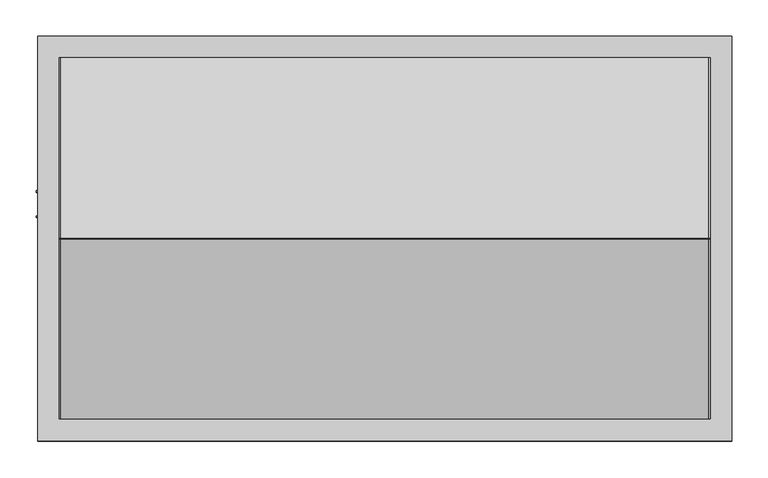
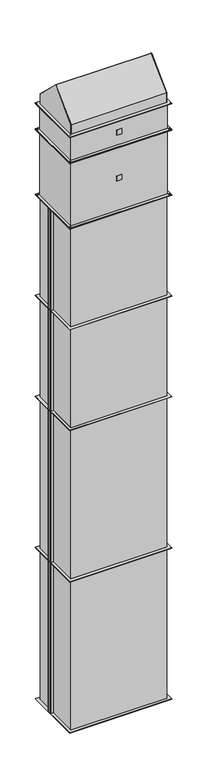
"""IFC4 building model written with IfcOpenShell, lengths in millimetres: proxy geometry, KORF_Завеса_БезНагрева_PWZ_C : PWZ-C 90-50 H."""

from ifc_helpers import new_model, si_unit, point, frame, frame_2d, origin, origin_with_axes, place, context, project, spatial, polyline, circle_curve, trimmed, segment, composite_curve, outline, extrude, source, transform, mapped, element, save


def mechanical_equipment_bf6ab390(model_context):
    return source(origin(), model_context, "Body", "SweptSolid", [
        extrude(outline(polyline([(25.0, -255.0), (-25.0, -255.0), (-25.0, -253.0), (25.0, -253.0), (25.0, -255.0)])), frame((0.0, 0.0, 5755.0), z_axis=(0.0, 0.0, 1.0), x_axis=(1.0, 0.0, 0.0)), (0.0, 0.0, 1.0), 50.0),
        extrude(outline(polyline([(-480.0, -280.0), (-480.0, 280.0), (480.0, 280.0), (480.0, -280.0), (-480.0, -280.0)]), holes=[polyline([(-450.0, -250.0), (450.0, -250.0), (450.0, 250.0), (-450.0, 250.0), (-450.0, -250.0)]), composite_curve([segment(trimmed(circle_curve(frame_2d((465.0, -265.0)), 5.5), [point((470.5, -265.0))], [point((459.5, -265.0))], True, "CARTESIAN"), True, "CONTINUOUS"), segment(trimmed(circle_curve(frame_2d((465.0, -265.0)), 5.5), [point((459.5, -265.0))], [point((470.5, -265.0))], True, "CARTESIAN"), True, "CONTINUOUS")], self_intersect=False), composite_curve([segment(trimmed(circle_curve(frame_2d((-465.0, -265.0)), 5.5), [point((-459.5, -265.0))], [point((-470.5, -265.0))], True, "CARTESIAN"), True, "CONTINUOUS"), segment(trimmed(circle_curve(frame_2d((-465.0, -265.0)), 5.5), [point((-470.5, -265.0))], [point((-459.5, -265.0))], True, "CARTESIAN"), True, "CONTINUOUS")], self_intersect=False), composite_curve([segment(trimmed(circle_curve(frame_2d((-465.0, 265.0)), 5.5), [point((-459.5, 265.0))], [point((-470.5, 265.0))], True, "CARTESIAN"), True, "CONTINUOUS"), segment(trimmed(circle_curve(frame_2d((-465.0, 265.0)), 5.5), [point((-470.5, 265.0))], [point((-459.5, 265.0))], True, "CARTESIAN"), True, "CONTINUOUS")], self_intersect=False), composite_curve([segment(trimmed(circle_curve(frame_2d((465.0, 265.0)), 5.5), [point((470.5, 265.0))], [point((459.5, 265.0))], True, "CARTESIAN"), True, "CONTINUOUS"), segment(trimmed(circle_curve(frame_2d((465.0, 265.0)), 5.5), [point((459.5, 265.0))], [point((470.5, 265.0))], True, "CARTESIAN"), True, "CONTINUOUS")], self_intersect=False)]), frame((0.0, 0.0, 5650.0), z_axis=(0.0, 0.0, 1.0), x_axis=(1.0, 0.0, 0.0)), (0.0, 0.0, 1.0), 5.0),
        extrude(outline(polyline([(-480.0, -280.0), (-480.0, 280.0), (480.0, 280.0), (480.0, -280.0), (-480.0, -280.0)]), holes=[polyline([(-450.0, -250.0), (450.0, -250.0), (450.0, 250.0), (-450.0, 250.0), (-450.0, -250.0)]), composite_curve([segment(trimmed(circle_curve(frame_2d((465.0, -265.0)), 5.5), [point((470.5, -265.0))], [point((459.5, -265.0))], True, "CARTESIAN"), True, "CONTINUOUS"), segment(trimmed(circle_curve(frame_2d((465.0, -265.0)), 5.5), [point((459.5, -265.0))], [point((470.5, -265.0))], True, "CARTESIAN"), True, "CONTINUOUS")], self_intersect=False), composite_curve([segment(trimmed(circle_curve(frame_2d((-465.0, -265.0)), 5.5), [point((-459.5, -265.0))], [point((-470.5, -265.0))], True, "CARTESIAN"), True, "CONTINUOUS"), segment(trimmed(circle_curve(frame_2d((-465.0, -265.0)), 5.5), [point((-470.5, -265.0))], [point((-459.5, -265.0))], True, "CARTESIAN"), True, "CONTINUOUS")], self_intersect=False), composite_curve([segment(trimmed(circle_curve(frame_2d((-465.0, 265.0)), 5.5), [point((-459.5, 265.0))], [point((-470.5, 265.0))], True, "CARTESIAN"), True, "CONTINUOUS"), segment(trimmed(circle_curve(frame_2d((-465.0, 265.0)), 5.5), [point((-470.5, 265.0))], [point((-459.5, 265.0))], True, "CARTESIAN"), True, "CONTINUOUS")], self_intersect=False), composite_curve([segment(trimmed(circle_curve(frame_2d((465.0, 265.0)), 5.5), [point((470.5, 265.0))], [point((459.5, 265.0))], True, "CARTESIAN"), True, "CONTINUOUS"), segment(trimmed(circle_curve(frame_2d((465.0, 265.0)), 5.5), [point((459.5, 265.0))], [point((470.5, 265.0))], True, "CARTESIAN"), True, "CONTINUOUS")], self_intersect=False)]), frame((0.0, 0.0, 5905.0), z_axis=(0.0, 0.0, 1.0), x_axis=(1.0, 0.0, 0.0)), (0.0, 0.0, 1.0), 5.0),
        extrude(outline(polyline([(-453.0, -253.0), (-453.0, 253.0), (453.0, 253.0), (453.0, -253.0), (-453.0, -253.0)])), frame((0.0, 0.0, 5655.0), z_axis=(0.0, 0.0, 1.0), x_axis=(1.0, 0.0, 0.0)), (0.0, 0.0, 1.0), 250.0),
        extrude(outline(polyline([(25.0, -255.0), (-25.0, -255.0), (-25.0, -253.0), (25.0, -253.0), (25.0, -255.0)])), frame((0.0, 0.0, 5300.0), z_axis=(0.0, 0.0, 1.0), x_axis=(1.0, 0.0, 0.0)), (0.0, 0.0, 1.0), 50.0),
        extrude(outline(polyline([(480.0, -280.0), (-480.0, -280.0), (-480.0, 280.0), (480.0, 280.0), (480.0, -280.0)]), holes=[polyline([(450.0, -250.0), (450.0, 250.0), (-450.0, 250.0), (-450.0, -250.0), (450.0, -250.0)]), composite_curve([segment(trimmed(circle_curve(frame_2d((-465.0, -265.0)), 5.5), [point((-459.5, -265.0))], [point((-470.5, -265.0))], True, "CARTESIAN"), True, "CONTINUOUS"), segment(trimmed(circle_curve(frame_2d((-465.0, -265.0)), 5.5), [point((-470.5, -265.0))], [point((-459.5, -265.0))], True, "CARTESIAN"), True, "CONTINUOUS")], self_intersect=False), composite_curve([segment(trimmed(circle_curve(frame_2d((465.0, -265.0)), 5.5), [point((470.5, -265.0))], [point((459.5, -265.0))], True, "CARTESIAN"), True, "CONTINUOUS"), segment(trimmed(circle_curve(frame_2d((465.0, -265.0)), 5.5), [point((459.5, -265.0))], [point((470.5, -265.0))], True, "CARTESIAN"), True, "CONTINUOUS")], self_intersect=False), composite_curve([segment(trimmed(circle_curve(frame_2d((465.0, 265.0)), 5.5), [point((470.5, 265.0))], [point((459.5, 265.0))], True, "CARTESIAN"), True, "CONTINUOUS"), segment(trimmed(circle_curve(frame_2d((465.0, 265.0)), 5.5), [point((459.5, 265.0))], [point((470.5, 265.0))], True, "CARTESIAN"), True, "CONTINUOUS")], self_intersect=False), composite_curve([segment(trimmed(circle_curve(frame_2d((-465.0, 265.0)), 5.5), [point((-459.5, 265.0))], [point((-470.5, 265.0))], True, "CARTESIAN"), True, "CONTINUOUS"), segment(trimmed(circle_curve(frame_2d((-465.0, 265.0)), 5.5), [point((-470.5, 265.0))], [point((-459.5, 265.0))], True, "CARTESIAN"), True, "CONTINUOUS")], self_intersect=False)]), frame((0.0, 0.0, 5645.0), z_axis=(0.0, 0.0, 1.0), x_axis=(1.0, 0.0, 0.0)), (0.0, 0.0, 1.0), 5.0),
        extrude(outline(polyline([(480.0, -280.0), (-480.0, -280.0), (-480.0, 280.0), (480.0, 280.0), (480.0, -280.0)]), holes=[polyline([(450.0, -250.0), (450.0, 250.0), (-450.0, 250.0), (-450.0, -250.0), (450.0, -250.0)]), composite_curve([segment(trimmed(circle_curve(frame_2d((-465.0, -265.0)), 5.5), [point((-459.5, -265.0))], [point((-470.5, -265.0))], True, "CARTESIAN"), True, "CONTINUOUS"), segment(trimmed(circle_curve(frame_2d((-465.0, -265.0)), 5.5), [point((-470.5, -265.0))], [point((-459.5, -265.0))], True, "CARTESIAN"), True, "CONTINUOUS")], self_intersect=False), composite_curve([segment(trimmed(circle_curve(frame_2d((465.0, -265.0)), 5.5), [point((470.5, -265.0))], [point((459.5, -265.0))], True, "CARTESIAN"), True, "CONTINUOUS"), segment(trimmed(circle_curve(frame_2d((465.0, -265.0)), 5.5), [point((459.5, -265.0))], [point((470.5, -265.0))], True, "CARTESIAN"), True, "CONTINUOUS")], self_intersect=False), composite_curve([segment(trimmed(circle_curve(frame_2d((465.0, 265.0)), 5.5), [point((470.5, 265.0))], [point((459.5, 265.0))], True, "CARTESIAN"), True, "CONTINUOUS"), segment(trimmed(circle_curve(frame_2d((465.0, 265.0)), 5.5), [point((459.5, 265.0))], [point((470.5, 265.0))], True, "CARTESIAN"), True, "CONTINUOUS")], self_intersect=False), composite_curve([segment(trimmed(circle_curve(frame_2d((-465.0, 265.0)), 5.5), [point((-459.5, 265.0))], [point((-470.5, 265.0))], True, "CARTESIAN"), True, "CONTINUOUS"), segment(trimmed(circle_curve(frame_2d((-465.0, 265.0)), 5.5), [point((-470.5, 265.0))], [point((-459.5, 265.0))], True, "CARTESIAN"), True, "CONTINUOUS")], self_intersect=False)]), frame((0.0, 0.0, 5000.0), z_axis=(0.0, 0.0, 1.0), x_axis=(1.0, 0.0, 0.0)), (0.0, 0.0, 1.0), 5.0),
        extrude(outline(polyline([(453.0, -253.0), (-453.0, -253.0), (-453.0, 253.0), (453.0, 253.0), (453.0, -253.0)])), frame((0.0, 0.0, 5005.0), z_axis=(0.0, 0.0, 1.0), x_axis=(1.0, 0.0, 0.0)), (0.0, 0.0, 1.0), 640.0),
        extrude(outline(polyline([(450.0, 250.0), (450.0, -250.0), (-450.0, -250.0), (-450.0, 250.0), (450.0, 250.0)])), frame((0.0, 0.0, 4000.0), z_axis=(0.0, 0.0, 1.0), x_axis=(1.0, 0.0, 0.0)), (0.0, 0.0, 1.0), 1000.0),
        extrude(outline(polyline([(-478.0, 62.5), (-450.0, 62.5), (-450.0, 33.5), (-478.0, 33.5), (-478.0, 62.5)])), frame((0.0, 0.0, 4002.0), z_axis=(0.0, 0.0, 1.0), x_axis=(1.0, 0.0, 0.0)), (0.0, 0.0, 1.0), 996.0),
        extrude(outline(polyline([(-482.0, 66.5), (-450.0, 66.5), (-450.0, 64.5), (-482.0, 64.5), (-482.0, 66.5)])), frame((0.0, 0.0, 4002.0), z_axis=(0.0, 0.0, 1.0), x_axis=(1.0, 0.0, 0.0)), (0.0, 0.0, 1.0), 996.0),
        extrude(outline(polyline([(-482.0, 29.5), (-482.0, 31.5), (-450.0, 31.5), (-450.0, 29.5), (-482.0, 29.5)])), frame((0.0, 0.0, 4002.0), z_axis=(0.0, 0.0, 1.0), x_axis=(1.0, 0.0, 0.0)), (0.0, 0.0, 1.0), 996.0),
        extrude(outline(polyline([(480.0, 280.0), (480.0, -280.0), (-480.0, -280.0), (-480.0, 280.0), (480.0, 280.0)]), holes=[polyline([(450.0, 250.0), (-450.0, 250.0), (-450.0, -250.0), (450.0, -250.0), (450.0, 250.0)])]), frame((0.0, 0.0, 4998.0), z_axis=(0.0, 0.0, 1.0), x_axis=(1.0, 0.0, 0.0)), (0.0, 0.0, 1.0), 2.0),
        extrude(outline(polyline([(480.0, 280.0), (480.0, -280.0), (-480.0, -280.0), (-480.0, 280.0), (480.0, 280.0)]), holes=[polyline([(450.0, 250.0), (-450.0, 250.0), (-450.0, -250.0), (450.0, -250.0), (450.0, 250.0)])]), frame((0.0, 0.0, 4000.0), z_axis=(0.0, 0.0, 1.0), x_axis=(1.0, 0.0, 0.0)), (0.0, 0.0, 1.0), 2.0),
        extrude(outline(polyline([(450.0, 250.0), (450.0, -250.0), (-450.0, -250.0), (-450.0, 250.0), (450.0, 250.0)])), frame((0.0, 0.0, 3000.0), z_axis=(0.0, 0.0, 1.0), x_axis=(1.0, 0.0, 0.0)), (0.0, 0.0, 1.0), 1000.0),
        extrude(outline(polyline([(-478.0, 62.5), (-450.0, 62.5), (-450.0, 33.5), (-478.0, 33.5), (-478.0, 62.5)])), frame((0.0, 0.0, 3002.0), z_axis=(0.0, 0.0, 1.0), x_axis=(1.0, 0.0, 0.0)), (0.0, 0.0, 1.0), 996.0),
        extrude(outline(polyline([(-482.0, 66.5), (-450.0, 66.5), (-450.0, 64.5), (-482.0, 64.5), (-482.0, 66.5)])), frame((0.0, 0.0, 3002.0), z_axis=(0.0, 0.0, 1.0), x_axis=(1.0, 0.0, 0.0)), (0.0, 0.0, 1.0), 996.0),
        extrude(outline(polyline([(-482.0, 29.5), (-482.0, 31.5), (-450.0, 31.5), (-450.0, 29.5), (-482.0, 29.5)])), frame((0.0, 0.0, 3002.0), z_axis=(0.0, 0.0, 1.0), x_axis=(1.0, 0.0, 0.0)), (0.0, 0.0, 1.0), 996.0),
        extrude(outline(polyline([(480.0, 280.0), (480.0, -280.0), (-480.0, -280.0), (-480.0, 280.0), (480.0, 280.0)]), holes=[polyline([(450.0, 250.0), (-450.0, 250.0), (-450.0, -250.0), (450.0, -250.0), (450.0, 250.0)])]), frame((0.0, 0.0, 3998.0), z_axis=(0.0, 0.0, 1.0), x_axis=(1.0, 0.0, 0.0)), (0.0, 0.0, 1.0), 2.0),
        extrude(outline(polyline([(480.0, 280.0), (480.0, -280.0), (-480.0, -280.0), (-480.0, 280.0), (480.0, 280.0)]), holes=[polyline([(450.0, 250.0), (-450.0, 250.0), (-450.0, -250.0), (450.0, -250.0), (450.0, 250.0)])]), frame((0.0, 0.0, 3000.0), z_axis=(0.0, 0.0, 1.0), x_axis=(1.0, 0.0, 0.0)), (0.0, 0.0, 1.0), 2.0),
        extrude(outline(polyline([(450.0, 250.0), (450.0, -250.0), (-450.0, -250.0), (-450.0, 250.0), (450.0, 250.0)])), frame((0.0, 0.0, 1500.0), z_axis=(0.0, 0.0, 1.0), x_axis=(1.0, 0.0, 0.0)), (0.0, 0.0, 1.0), 1500.0),
        extrude(outline(polyline([(-478.0, 62.5), (-450.0, 62.5), (-450.0, 33.5), (-478.0, 33.5), (-478.0, 62.5)])), frame((0.0, 0.0, 1502.0), z_axis=(0.0, 0.0, 1.0), x_axis=(1.0, 0.0, 0.0)), (0.0, 0.0, 1.0), 1496.0),
        extrude(outline(polyline([(-482.0, 66.5), (-450.0, 66.5), (-450.0, 64.5), (-482.0, 64.5), (-482.0, 66.5)])), frame((0.0, 0.0, 1502.0), z_axis=(0.0, 0.0, 1.0), x_axis=(1.0, 0.0, 0.0)), (0.0, 0.0, 1.0), 1496.0),
        extrude(outline(polyline([(-482.0, 29.5), (-482.0, 31.5), (-450.0, 31.5), (-450.0, 29.5), (-482.0, 29.5)])), frame((0.0, 0.0, 1502.0), z_axis=(0.0, 0.0, 1.0), x_axis=(1.0, 0.0, 0.0)), (0.0, 0.0, 1.0), 1496.0),
        extrude(outline(polyline([(480.0, 280.0), (480.0, -280.0), (-480.0, -280.0), (-480.0, 280.0), (480.0, 280.0)]), holes=[polyline([(450.0, 250.0), (-450.0, 250.0), (-450.0, -250.0), (450.0, -250.0), (450.0, 250.0)])]), frame((0.0, 0.0, 2998.0), z_axis=(0.0, 0.0, 1.0), x_axis=(1.0, 0.0, 0.0)), (0.0, 0.0, 1.0), 2.0),
        extrude(outline(polyline([(480.0, 280.0), (480.0, -280.0), (-480.0, -280.0), (-480.0, 280.0), (480.0, 280.0)]), holes=[polyline([(450.0, 250.0), (-450.0, 250.0), (-450.0, -250.0), (450.0, -250.0), (450.0, 250.0)])]), frame((0.0, 0.0, 1500.0), z_axis=(0.0, 0.0, 1.0), x_axis=(1.0, 0.0, 0.0)), (0.0, 0.0, 1.0), 2.0),
        extrude(outline(polyline([(450.0, 250.0), (450.0, -250.0), (-450.0, -250.0), (-450.0, 250.0), (450.0, 250.0)])), origin_with_axes(), (0.0, 0.0, 1.0), 1500.0),
        extrude(outline(polyline([(-478.0, 62.5), (-450.0, 62.5), (-450.0, 33.5), (-478.0, 33.5), (-478.0, 62.5)])), frame((0.0, 0.0, 2.0), z_axis=(0.0, 0.0, 1.0), x_axis=(1.0, 0.0, 0.0)), (0.0, 0.0, 1.0), 1496.0),
        extrude(outline(polyline([(-482.0, 66.5), (-450.0, 66.5), (-450.0, 64.5), (-482.0, 64.5), (-482.0, 66.5)])), frame((0.0, 0.0, 2.0), z_axis=(0.0, 0.0, 1.0), x_axis=(1.0, 0.0, 0.0)), (0.0, 0.0, 1.0), 1496.0),
        extrude(outline(polyline([(-482.0, 29.5), (-482.0, 31.5), (-450.0, 31.5), (-450.0, 29.5), (-482.0, 29.5)])), frame((0.0, 0.0, 2.0), z_axis=(0.0, 0.0, 1.0), x_axis=(1.0, 0.0, 0.0)), (0.0, 0.0, 1.0), 1496.0),
        extrude(outline(polyline([(480.0, 280.0), (480.0, -280.0), (-480.0, -280.0), (-480.0, 280.0), (480.0, 280.0)]), holes=[polyline([(450.0, 250.0), (-450.0, 250.0), (-450.0, -250.0), (450.0, -250.0), (450.0, 250.0)])]), frame((0.0, 0.0, 1498.0), z_axis=(0.0, 0.0, 1.0), x_axis=(1.0, 0.0, 0.0)), (0.0, 0.0, 1.0), 2.0),
        extrude(outline(polyline([(480.0, 280.0), (480.0, -280.0), (-480.0, -280.0), (-480.0, 280.0), (480.0, 280.0)]), holes=[polyline([(450.0, 250.0), (-450.0, 250.0), (-450.0, -250.0), (450.0, -250.0), (450.0, 250.0)])]), origin_with_axes(), (0.0, 0.0, 1.0), 2.0),
        extrude(outline(composite_curve([segment(polyline([(250.0, 6007.1428571), (250.0, 5912.0), (-250.0, 5912.0), (-250.0, 6007.1428571), (-0.6395979, 6249.3786763)]), True, "CONTINUOUS"), segment(trimmed(circle_curve(frame_2d((0.0, 6248.7202668)), 0.9179263), [point((-0.6395979, 6249.3786763))], [point((0.6395979, 6249.3786763))], False, "CARTESIAN"), True, "CONTINUOUS"), segment(polyline([(0.6395979, 6249.3786763), (250.0, 6007.1428571)]), True, "CONTINUOUS")], self_intersect=False)), frame((448.0, 0.0, 0.0), z_axis=(1.0, 0.0, 0.0), x_axis=(0.0, 1.0, 0.0)), (0.0, 0.0, 1.0), 2.0),
        extrude(outline(composite_curve([segment(polyline([(250.0, 6007.1428571), (250.0, 5912.0), (-250.0, 5912.0), (-250.0, 6007.1428571), (-0.6395979, 6249.3786763)]), True, "CONTINUOUS"), segment(trimmed(circle_curve(frame_2d((0.0, 6248.7202668)), 0.9179263), [point((-0.6395979, 6249.3786763))], [point((0.6395979, 6249.3786763))], False, "CARTESIAN"), True, "CONTINUOUS"), segment(polyline([(0.6395979, 6249.3786763), (250.0, 6007.1428571)]), True, "CONTINUOUS")], self_intersect=False)), frame((-448.0, 0.0, 0.0), z_axis=(1.0, 0.0, 0.0), x_axis=(0.0, 1.0, 0.0)), (0.0, 0.0, 1.0), 896.0),
        extrude(outline(composite_curve([segment(polyline([(250.0, 6007.1428571), (250.0, 5912.0), (-250.0, 5912.0), (-250.0, 6007.1428571), (-0.6395979, 6249.3786763)]), True, "CONTINUOUS"), segment(trimmed(circle_curve(frame_2d((0.0, 6248.7202668)), 0.9179263), [point((-0.6395979, 6249.3786763))], [point((0.6395979, 6249.3786763))], False, "CARTESIAN"), True, "CONTINUOUS"), segment(polyline([(0.6395979, 6249.3786763), (250.0, 6007.1428571)]), True, "CONTINUOUS")], self_intersect=False)), frame((-450.0, 0.0, 0.0), z_axis=(1.0, 0.0, 0.0), x_axis=(0.0, 1.0, 0.0)), (0.0, 0.0, 1.0), 2.0),
        extrude(outline(polyline([(480.0, 280.0), (480.0, -280.0), (-480.0, -280.0), (-480.0, 280.0), (480.0, 280.0)]), holes=[polyline([(-450.0, 250.0), (-450.0, -250.0), (450.0, -250.0), (450.0, 250.0), (-450.0, 250.0)])]), frame((0.0, 0.0, 5910.0), z_axis=(0.0, 0.0, 1.0), x_axis=(1.0, 0.0, 0.0)), (0.0, 0.0, 1.0), 2.0),
    ])


if __name__ == "__main__":
    model = new_model("IFC4")
    model_context = context("Model", 3, world=origin())
    ifc_project = project(units=[si_unit("LENGTHUNIT", "METRE", prefix="MILLI")], contexts=[model_context])
    site = spatial("IfcSite", under=ifc_project)
    building = spatial("IfcBuilding", under=site)
    placement = place(None, origin())
    mechanical_equipment_shape = mechanical_equipment_bf6ab390(model_context)
    element("IfcBuildingElementProxy", 1, Name="KORF_Завеса_БезНагрева_PWZ_C : PWZ-C 90-50 H", ObjectType="KORF_Завеса_БезНагрева_PWZ_C : PWZ-C 90-50 H", at=placement, inside=building, context=model_context, shape_type="MappedRepresentation", body=[
        mapped(mechanical_equipment_shape, transform((0.0, 0.0, 0.0), x_axis=(1.0, 0.0, 0.0), y_axis=(0.0, 1.0, 0.0), z_axis=(0.0, 0.0, 1.0))),
    ])
    save(model, "model.ifc")
